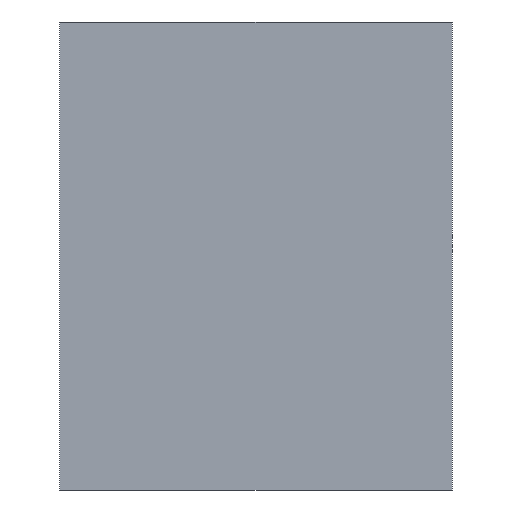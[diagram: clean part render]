
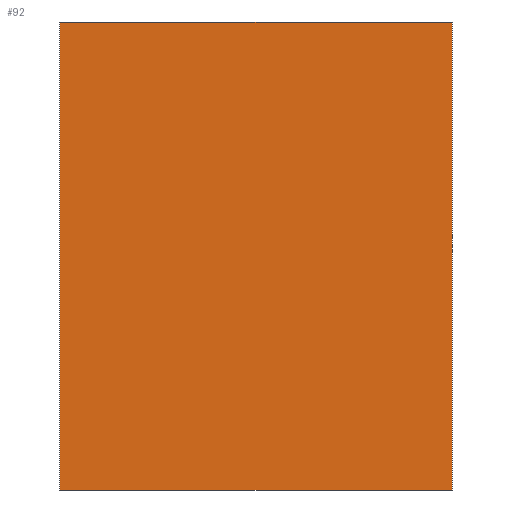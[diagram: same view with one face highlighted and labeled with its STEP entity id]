
A CAD part, top view. The second image highlights one B-rep face of the part: STEP entity #92.
In plain terms, the highlighted planar face has unit normal (0, 0, 1).
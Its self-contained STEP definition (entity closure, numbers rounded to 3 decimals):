
#53=CARTESIAN_POINT('Axis2P3D Location',(0.,0.,0.)) ;
#58=CARTESIAN_POINT('Line Origine',(52.,0.,0.)) ;
#62=CARTESIAN_POINT('Vertex',(0.,0.,0.)) ;
#64=CARTESIAN_POINT('Vertex',(104.,0.,0.)) ;
#67=CARTESIAN_POINT('Line Origine',(104.,62.,0.)) ;
#71=CARTESIAN_POINT('Vertex',(104.,124.,0.)) ;
#74=CARTESIAN_POINT('Line Origine',(52.,124.,0.)) ;
#78=CARTESIAN_POINT('Vertex',(0.,124.,0.)) ;
#81=CARTESIAN_POINT('Line Origine',(0.,62.,0.)) ;
#54=DIRECTION('Axis2P3D Direction',(0.,0.,1.)) ;
#55=DIRECTION('Axis2P3D XDirection',(1.,0.,0.)) ;
#59=DIRECTION('Vector Direction',(1.,0.,0.)) ;
#68=DIRECTION('Vector Direction',(0.,1.,0.)) ;
#75=DIRECTION('Vector Direction',(-1.,0.,0.)) ;
#82=DIRECTION('Vector Direction',(0.,-1.,0.)) ;
#56=AXIS2_PLACEMENT_3D('Plane Axis2P3D',#53,#54,#55) ;
#87=ORIENTED_EDGE('',*,*,#66,.T.) ;
#88=ORIENTED_EDGE('',*,*,#73,.T.) ;
#89=ORIENTED_EDGE('',*,*,#80,.T.) ;
#90=ORIENTED_EDGE('',*,*,#85,.T.) ;
#60=VECTOR('Line Direction',#59,1.) ;
#69=VECTOR('Line Direction',#68,1.) ;
#76=VECTOR('Line Direction',#75,1.) ;
#83=VECTOR('Line Direction',#82,1.) ;
#92=ADVANCED_FACE('Fill.1',(#91),#57,.T.) ;
#66=EDGE_CURVE('',#63,#65,#61,.T.) ;
#73=EDGE_CURVE('',#65,#72,#70,.T.) ;
#80=EDGE_CURVE('',#72,#79,#77,.T.) ;
#85=EDGE_CURVE('',#79,#63,#84,.T.) ;
#86=EDGE_LOOP('',(#87,#88,#89,#90)) ;
#91=FACE_OUTER_BOUND('',#86,.T.) ;
#61=LINE('Line',#58,#60) ;
#70=LINE('Line',#67,#69) ;
#77=LINE('Line',#74,#76) ;
#84=LINE('Line',#81,#83) ;
#57=PLANE('',#56) ;
#63=VERTEX_POINT('',#62) ;
#65=VERTEX_POINT('',#64) ;
#72=VERTEX_POINT('',#71) ;
#79=VERTEX_POINT('',#78) ;
